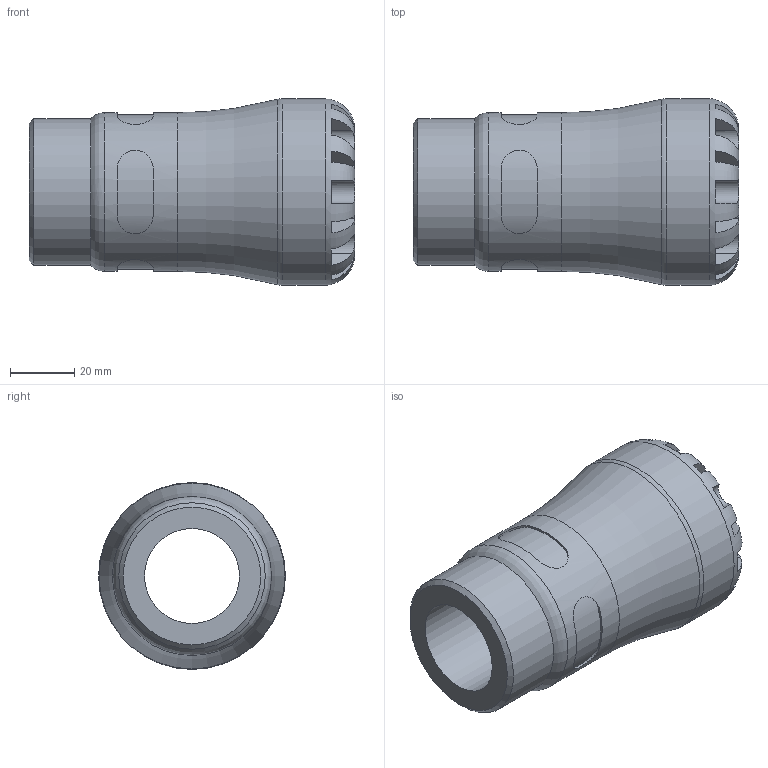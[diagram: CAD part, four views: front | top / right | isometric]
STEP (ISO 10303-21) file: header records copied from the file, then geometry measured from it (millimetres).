
FILE_DESCRIPTION(/* description */ ('PLASSON MALE INTEGRAL BRASS THREAD 32X1.1/2" SERIES 1'),/* implementation_level */ '2;1');
FILE_NAME(/* name */ 'C:\Dropbox\KIMPROJECTS-Inventor\99-16-3568-Processing\1072\107200032015_197200032015.ipt.stp',/* time_stamp */ '2017-01-22T10:48:57+02:00',/* author */ ('KIM'),/* organization */ (''),/* preprocessor_version */ 'ST-DEVELOPER v15.6',/* originating_system */ 'Autodesk Inventor 2015',/* authorisation */ '');
FILE_SCHEMA (('AUTOMOTIVE_DESIGN { 1 0 10303 214 3 1 1 }'));
Length unit declared in the file: millimetre
Products named in the file (1): 107200032015_197200032015
Bounding box: 101 x 58 x 58 mm (x, y, z)
Volume: 128739.4 mm3; surface area: 29956.7 mm2
Topology: 1 solids, 1 shells, 98 faces, 246 edges, 154 vertices
Faces by surface type: plane 59, cylinder 33, torus 4, cone 2
Full cylindrical faces by diameter (mm): 29.485 x1, 32 x1, 45.485 x1, 49.3 x1, 58 x1
Entity records: 3730 total; most frequent: CARTESIAN_POINT 1399, ORIENTED_EDGE 458, DIRECTION 448, EDGE_CURVE 229, AXIS2_PLACEMENT_3D 184, VERTEX_POINT 149, EDGE_LOOP 116, STYLED_ITEM 99
